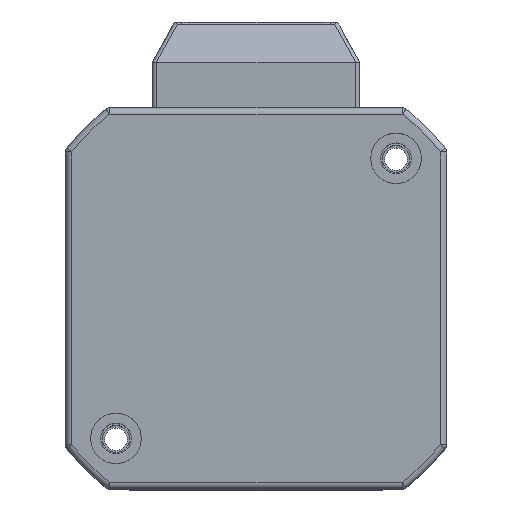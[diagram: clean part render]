
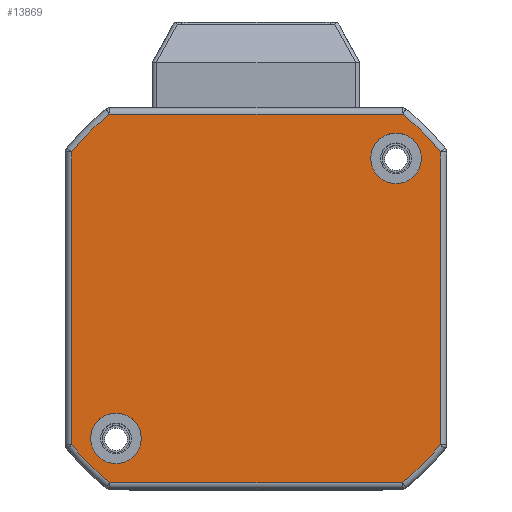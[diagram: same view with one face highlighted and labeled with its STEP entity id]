
A CAD part, top view. The second image highlights one B-rep face of the part: STEP entity #13869.
In plain terms, the highlighted planar face has unit normal (0, 0, 1) as drawn and (0, 0, -1) by its records, which use the part's own axes.
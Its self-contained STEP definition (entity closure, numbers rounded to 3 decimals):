
#58 = CARTESIAN_POINT ( 'NONE',  ( -16.442, -20.4, 0. ) ) ;
#66 = CIRCLE ( 'NONE', #18973, 26.05 ) ;
#83 = AXIS2_PLACEMENT_3D ( 'NONE', #29919, #1287, #25569 ) ;
#212 = ORIENTED_EDGE ( 'NONE', *, *, #4491, .T. ) ;
#324 = EDGE_CURVE ( 'NONE', #9784, #13777, #2664, .T. ) ;
#539 = LINE ( 'NONE', #3285, #15354 ) ;
#902 = LINE ( 'NONE', #13526, #27130 ) ;
#1038 = DIRECTION ( 'NONE',  ( 0., 0., -1. ) ) ;
#1287 = DIRECTION ( 'NONE',  ( 0., 0., -1. ) ) ;
#1617 = VERTEX_POINT ( 'NONE', #11532 ) ;
#1960 = DIRECTION ( 'NONE',  ( 1., 0., 0. ) ) ;
#2197 = CIRCLE ( 'NONE', #22625, 2.8 ) ;
#2282 = PLANE ( 'NONE',  #30935 ) ;
#2442 = DIRECTION ( 'NONE',  ( 0., 0., 1. ) ) ;
#2664 = CIRCLE ( 'NONE', #31248, 26.05 ) ;
#3159 = VERTEX_POINT ( 'NONE', #31462 ) ;
#3285 = CARTESIAN_POINT ( 'NONE',  ( -20.4, 16.442, 0. ) ) ;
#3537 = ORIENTED_EDGE ( 'NONE', *, *, #14505, .T. ) ;
#4368 = DIRECTION ( 'NONE',  ( 1., 0., 0. ) ) ;
#4491 = EDGE_CURVE ( 'NONE', #1617, #9784, #902, .T. ) ;
#4895 = LINE ( 'NONE', #58, #20035 ) ;
#5165 = DIRECTION ( 'NONE',  ( 0., -1., 0. ) ) ;
#5490 = CARTESIAN_POINT ( 'NONE',  ( 20.4, -16.442, 0. ) ) ;
#5593 = CARTESIAN_POINT ( 'NONE',  ( 0., 0., 0. ) ) ;
#5674 = DIRECTION ( 'NONE',  ( -1., 0., 0. ) ) ;
#6054 = CARTESIAN_POINT ( 'NONE',  ( -20.4, 16.2, 0. ) ) ;
#6119 = CARTESIAN_POINT ( 'NONE',  ( 20.4, -16.2, 0. ) ) ;
#6230 = CIRCLE ( 'NONE', #83, 2.8 ) ;
#6394 = ORIENTED_EDGE ( 'NONE', *, *, #30096, .F. ) ;
#7221 = CARTESIAN_POINT ( 'NONE',  ( -16.2, -20.4, 0. ) ) ;
#7670 = AXIS2_PLACEMENT_3D ( 'NONE', #26699, #19495, #17261 ) ;
#7843 = ORIENTED_EDGE ( 'NONE', *, *, #10898, .F. ) ;
#8557 = DIRECTION ( 'NONE',  ( 1., 0., 0. ) ) ;
#8571 = CARTESIAN_POINT ( 'NONE',  ( 16.2, 20.4, 0. ) ) ;
#9167 = EDGE_CURVE ( 'NONE', #10185, #15857, #13771, .T. ) ;
#9490 = FACE_BOUND ( 'NONE', #17154, .T. ) ;
#9735 = DIRECTION ( 'NONE',  ( 0., 0., -1. ) ) ;
#9784 = VERTEX_POINT ( 'NONE', #8571 ) ;
#10162 = DIRECTION ( 'NONE',  ( -1., 0., 0. ) ) ;
#10185 = VERTEX_POINT ( 'NONE', #6119 ) ;
#10239 = DIRECTION ( 'NONE',  ( 0., 0., -1. ) ) ;
#10762 = CIRCLE ( 'NONE', #7670, 2.8 ) ;
#10898 = EDGE_CURVE ( 'NONE', #15394, #27061, #10762, .T. ) ;
#11223 = ORIENTED_EDGE ( 'NONE', *, *, #324, .T. ) ;
#11393 = EDGE_CURVE ( 'NONE', #15857, #15211, #4895, .T. ) ;
#11525 = CIRCLE ( 'NONE', #14602, 2.8 ) ;
#11532 = CARTESIAN_POINT ( 'NONE',  ( -16.2, 20.4, 0. ) ) ;
#12288 = CARTESIAN_POINT ( 'NONE',  ( 15.5, -15.5, 0. ) ) ;
#12615 = DIRECTION ( 'NONE',  ( -1., 0., 0. ) ) ;
#12643 = ORIENTED_EDGE ( 'NONE', *, *, #16350, .F. ) ;
#13178 = DIRECTION ( 'NONE',  ( 0., 1., 0. ) ) ;
#13526 = CARTESIAN_POINT ( 'NONE',  ( 16.442, 20.4, 0. ) ) ;
#13771 = CIRCLE ( 'NONE', #31637, 26.05 ) ;
#13777 = VERTEX_POINT ( 'NONE', #18748 ) ;
#13869 = ADVANCED_FACE ( 'NONE', ( #21939, #9490, #28811 ), #2282, .F. ) ;
#14249 = ORIENTED_EDGE ( 'NONE', *, *, #28585, .T. ) ;
#14505 = EDGE_CURVE ( 'NONE', #24419, #1617, #28918, .T. ) ;
#14602 = AXIS2_PLACEMENT_3D ( 'NONE', #12288, #9735, #12615 ) ;
#14685 = VERTEX_POINT ( 'NONE', #28039 ) ;
#14957 = CARTESIAN_POINT ( 'NONE',  ( 16.2, -20.4, 0. ) ) ;
#15211 = VERTEX_POINT ( 'NONE', #7221 ) ;
#15354 = VECTOR ( 'NONE', #13178, 1000. ) ;
#15394 = VERTEX_POINT ( 'NONE', #30872 ) ;
#15737 = DIRECTION ( 'NONE',  ( 0., 0., -1. ) ) ;
#15857 = VERTEX_POINT ( 'NONE', #14957 ) ;
#16350 = EDGE_CURVE ( 'NONE', #23018, #3159, #6230, .T. ) ;
#17154 = EDGE_LOOP ( 'NONE', ( #6394, #7843 ) ) ;
#17261 = DIRECTION ( 'NONE',  ( -1., 0., 0. ) ) ;
#17833 = DIRECTION ( 'NONE',  ( 1., 0., 0. ) ) ;
#18346 = ORIENTED_EDGE ( 'NONE', *, *, #20508, .F. ) ;
#18350 = ORIENTED_EDGE ( 'NONE', *, *, #29276, .T. ) ;
#18585 = CARTESIAN_POINT ( 'NONE',  ( 0., 0., 0. ) ) ;
#18748 = CARTESIAN_POINT ( 'NONE',  ( 20.4, 16.2, 0. ) ) ;
#18973 = AXIS2_PLACEMENT_3D ( 'NONE', #5593, #10239, #26865 ) ;
#19371 = CARTESIAN_POINT ( 'NONE',  ( 0., 0., 0. ) ) ;
#19495 = DIRECTION ( 'NONE',  ( 0., 0., -1. ) ) ;
#19984 = VECTOR ( 'NONE', #5165, 1000. ) ;
#20035 = VECTOR ( 'NONE', #10162, 1000. ) ;
#20070 = CARTESIAN_POINT ( 'NONE',  ( -15.5, 15.5, 0. ) ) ;
#20508 = EDGE_CURVE ( 'NONE', #3159, #23018, #11525, .T. ) ;
#20566 = DIRECTION ( 'NONE',  ( 1., 0., 0. ) ) ;
#21123 = ORIENTED_EDGE ( 'NONE', *, *, #9167, .T. ) ;
#21148 = ORIENTED_EDGE ( 'NONE', *, *, #11393, .T. ) ;
#21939 = FACE_OUTER_BOUND ( 'NONE', #24660, .T. ) ;
#22625 = AXIS2_PLACEMENT_3D ( 'NONE', #20070, #15737, #5674 ) ;
#23018 = VERTEX_POINT ( 'NONE', #30345 ) ;
#23988 = EDGE_LOOP ( 'NONE', ( #12643, #18346 ) ) ;
#24419 = VERTEX_POINT ( 'NONE', #6054 ) ;
#24655 = LINE ( 'NONE', #5490, #19984 ) ;
#24660 = EDGE_LOOP ( 'NONE', ( #18350, #14249, #3537, #212, #11223, #30389, #21123, #21148 ) ) ;
#25569 = DIRECTION ( 'NONE',  ( -1., 0., 0. ) ) ;
#25646 = CARTESIAN_POINT ( 'NONE',  ( 0., 0., 0. ) ) ;
#25944 = DIRECTION ( 'NONE',  ( 0., 0., -1. ) ) ;
#26699 = CARTESIAN_POINT ( 'NONE',  ( -15.5, 15.5, 0. ) ) ;
#26865 = DIRECTION ( 'NONE',  ( 1., 0., 0. ) ) ;
#27061 = VERTEX_POINT ( 'NONE', #27298 ) ;
#27130 = VECTOR ( 'NONE', #20566, 1000. ) ;
#27298 = CARTESIAN_POINT ( 'NONE',  ( -18.3, 15.5, 0. ) ) ;
#27690 = EDGE_CURVE ( 'NONE', #13777, #10185, #24655, .T. ) ;
#27893 = CARTESIAN_POINT ( 'NONE',  ( 0., 0., 0. ) ) ;
#28039 = CARTESIAN_POINT ( 'NONE',  ( -20.4, -16.2, 0. ) ) ;
#28585 = EDGE_CURVE ( 'NONE', #14685, #24419, #539, .T. ) ;
#28811 = FACE_BOUND ( 'NONE', #23988, .T. ) ;
#28918 = CIRCLE ( 'NONE', #30449, 26.05 ) ;
#29276 = EDGE_CURVE ( 'NONE', #15211, #14685, #66, .T. ) ;
#29919 = CARTESIAN_POINT ( 'NONE',  ( 15.5, -15.5, 0. ) ) ;
#30096 = EDGE_CURVE ( 'NONE', #27061, #15394, #2197, .T. ) ;
#30345 = CARTESIAN_POINT ( 'NONE',  ( 12.7, -15.5, 0. ) ) ;
#30389 = ORIENTED_EDGE ( 'NONE', *, *, #27690, .T. ) ;
#30449 = AXIS2_PLACEMENT_3D ( 'NONE', #27893, #1038, #17833 ) ;
#30762 = DIRECTION ( 'NONE',  ( 0., 0., -1. ) ) ;
#30872 = CARTESIAN_POINT ( 'NONE',  ( -12.7, 15.5, 0. ) ) ;
#30935 = AXIS2_PLACEMENT_3D ( 'NONE', #19371, #2442, #4368 ) ;
#31248 = AXIS2_PLACEMENT_3D ( 'NONE', #25646, #30762, #8557 ) ;
#31462 = CARTESIAN_POINT ( 'NONE',  ( 18.3, -15.5, 0. ) ) ;
#31637 = AXIS2_PLACEMENT_3D ( 'NONE', #18585, #25944, #1960 ) ;
